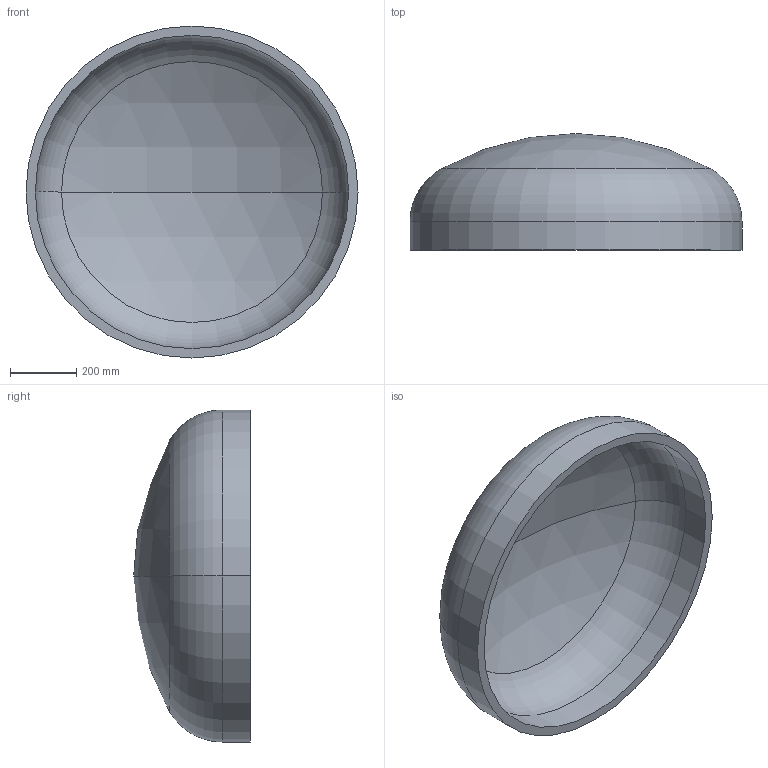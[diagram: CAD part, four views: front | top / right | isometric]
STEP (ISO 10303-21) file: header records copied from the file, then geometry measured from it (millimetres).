
FILE_DESCRIPTION (( 'STEP AP203' ), '1' );
FILE_NAME ('DIN 28013 Korbbogenform_-_Boden DIN 28013 - 1000 x 85 - I - s=28.step', '2016-07-01T08:46:07', ( '' ), ( '' ), 'SwSTEP 2.0', 'SolidWorks 2013', '' );
FILE_SCHEMA (( 'CONFIG_CONTROL_DESIGN' ));
Length unit declared in the file: millimetre
Products named in the file (1): DIN 28013 Korbbogenform_-_Boden DIN 28013 - 1000 x 85 - I - s=28
Bounding box: 1000 x 351.27 x 1000 mm (x, y, z)
Volume: 36667550.8 mm3; surface area: 2706253.6 mm2
Topology: 1 solids, 1 shells, 13 faces, 24 edges, 14 vertices
Faces by surface type: torus 4, cylinder 4, sphere 4, plane 1
Entity records: 407 total; most frequent: DIRECTION 72, CARTESIAN_POINT 52, ORIENTED_EDGE 48, AXIS2_PLACEMENT_3D 34, EDGE_CURVE 24, CIRCLE 20, EDGE_LOOP 14, VERTEX_POINT 14
